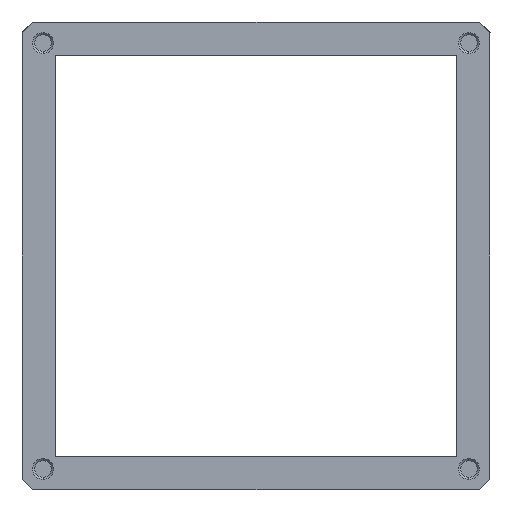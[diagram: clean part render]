
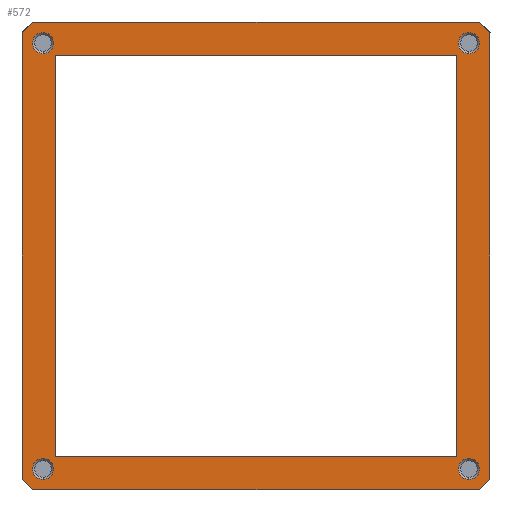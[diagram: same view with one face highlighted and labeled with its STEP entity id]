
A CAD part, left-side view. The second image highlights one B-rep face of the part: STEP entity #572.
In plain terms, the highlighted planar face has unit normal (-1, 0, 0).
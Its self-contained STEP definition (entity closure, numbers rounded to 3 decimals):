
#470=FACE_BOUND('',#1458,.F.);
#471=FACE_BOUND('',#1459,.F.);
#472=FACE_BOUND('',#1460,.F.);
#473=FACE_BOUND('',#1461,.F.);
#474=FACE_BOUND('',#1462,.F.);
#572=ADVANCED_FACE('',(#470,#471,#472,#473,#474,#1015),#4166,.T.);
#1015=FACE_OUTER_BOUND('',#1463,.F.);
#1458=EDGE_LOOP('',(#2013,#2014));
#1459=EDGE_LOOP('',(#2015,#2016));
#1460=EDGE_LOOP('',(#2017,#2018));
#1461=EDGE_LOOP('',(#2019,#2020));
#1462=EDGE_LOOP('',(#2021,#2022,#2023,#2024));
#1463=EDGE_LOOP('',(#2025,#2026,#2027,#2028,#2029,#2030,#2031,#2032));
#2013=ORIENTED_EDGE('',*,*,#5400,.T.);
#2014=ORIENTED_EDGE('',*,*,#5401,.T.);
#2015=ORIENTED_EDGE('',*,*,#5430,.T.);
#2016=ORIENTED_EDGE('',*,*,#5429,.T.);
#2017=ORIENTED_EDGE('',*,*,#5413,.T.);
#2018=ORIENTED_EDGE('',*,*,#5414,.T.);
#2019=ORIENTED_EDGE('',*,*,#5428,.T.);
#2020=ORIENTED_EDGE('',*,*,#5427,.T.);
#2021=ORIENTED_EDGE('',*,*,#5424,.T.);
#2022=ORIENTED_EDGE('',*,*,#5419,.T.);
#2023=ORIENTED_EDGE('',*,*,#5425,.T.);
#2024=ORIENTED_EDGE('',*,*,#5422,.T.);
#2025=ORIENTED_EDGE('',*,*,#5418,.F.);
#2026=ORIENTED_EDGE('',*,*,#5421,.F.);
#2027=ORIENTED_EDGE('',*,*,#5417,.F.);
#2028=ORIENTED_EDGE('',*,*,#5426,.F.);
#2029=ORIENTED_EDGE('',*,*,#5416,.F.);
#2030=ORIENTED_EDGE('',*,*,#5420,.F.);
#2031=ORIENTED_EDGE('',*,*,#5415,.F.);
#2032=ORIENTED_EDGE('',*,*,#5423,.F.);
#4166=PLANE('',#7971);
#4335=LINE('',#11698,#4871);
#4336=LINE('',#11699,#4872);
#4337=LINE('',#11700,#4873);
#4338=LINE('',#11701,#4874);
#4339=LINE('',#11702,#4875);
#4340=LINE('',#11703,#4876);
#4341=LINE('',#11704,#4877);
#4342=LINE('',#11705,#4878);
#4343=LINE('',#11706,#4879);
#4344=LINE('',#11707,#4880);
#4345=LINE('',#11708,#4881);
#4346=LINE('',#11709,#4882);
#4871=VECTOR('',#8691,1.414);
#4872=VECTOR('',#8692,1.414);
#4873=VECTOR('',#8693,1.414);
#4874=VECTOR('',#8694,1.414);
#4875=VECTOR('',#8695,38.1);
#4876=VECTOR('',#8696,42.45);
#4877=VECTOR('',#8697,42.45);
#4878=VECTOR('',#8698,38.1);
#4879=VECTOR('',#8699,42.45);
#4880=VECTOR('',#8700,38.1);
#4881=VECTOR('',#8701,38.1);
#4882=VECTOR('',#8702,42.45);
#5400=EDGE_CURVE('',#7437,#7436,#6482,.T.);
#5401=EDGE_CURVE('',#7436,#7437,#6483,.T.);
#5413=EDGE_CURVE('',#7423,#7422,#6484,.T.);
#5414=EDGE_CURVE('',#7422,#7423,#6485,.T.);
#5415=EDGE_CURVE('',#7426,#7427,#4335,.T.);
#5416=EDGE_CURVE('',#7421,#7420,#4336,.T.);
#5417=EDGE_CURVE('',#7419,#7418,#4337,.T.);
#5418=EDGE_CURVE('',#7417,#7416,#4338,.T.);
#5419=EDGE_CURVE('',#7415,#7414,#4339,.T.);
#5420=EDGE_CURVE('',#7427,#7421,#4340,.T.);
#5421=EDGE_CURVE('',#7418,#7417,#4341,.T.);
#5422=EDGE_CURVE('',#7413,#7412,#4342,.T.);
#5423=EDGE_CURVE('',#7416,#7426,#4343,.T.);
#5424=EDGE_CURVE('',#7412,#7415,#4344,.T.);
#5425=EDGE_CURVE('',#7414,#7413,#4345,.T.);
#5426=EDGE_CURVE('',#7420,#7419,#4346,.T.);
#5427=EDGE_CURVE('',#7411,#7410,#6486,.T.);
#5428=EDGE_CURVE('',#7410,#7411,#6487,.T.);
#5429=EDGE_CURVE('',#7409,#7408,#6488,.T.);
#5430=EDGE_CURVE('',#7408,#7409,#6489,.T.);
#6482=CIRCLE('',#7680,1.);
#6483=CIRCLE('',#7681,1.);
#6484=CIRCLE('',#7682,1.);
#6485=CIRCLE('',#7683,1.);
#6486=CIRCLE('',#7684,1.);
#6487=CIRCLE('',#7685,1.);
#6488=CIRCLE('',#7686,1.);
#6489=CIRCLE('',#7687,1.);
#7408=VERTEX_POINT('',#11605);
#7409=VERTEX_POINT('',#11606);
#7410=VERTEX_POINT('',#11607);
#7411=VERTEX_POINT('',#11608);
#7412=VERTEX_POINT('',#11609);
#7413=VERTEX_POINT('',#11610);
#7414=VERTEX_POINT('',#11611);
#7415=VERTEX_POINT('',#11612);
#7416=VERTEX_POINT('',#11613);
#7417=VERTEX_POINT('',#11614);
#7418=VERTEX_POINT('',#11615);
#7419=VERTEX_POINT('',#11616);
#7420=VERTEX_POINT('',#11617);
#7421=VERTEX_POINT('',#11618);
#7422=VERTEX_POINT('',#11619);
#7423=VERTEX_POINT('',#11620);
#7426=VERTEX_POINT('',#11623);
#7427=VERTEX_POINT('',#11624);
#7436=VERTEX_POINT('',#11633);
#7437=VERTEX_POINT('',#11634);
#7680=AXIS2_PLACEMENT_3D('',#11635,#8676,#8677);
#7681=AXIS2_PLACEMENT_3D('',#11636,#8678,#8679);
#7682=AXIS2_PLACEMENT_3D('',#11696,#8687,#8688);
#7683=AXIS2_PLACEMENT_3D('',#11697,#8689,#8690);
#7684=AXIS2_PLACEMENT_3D('',#11710,#8703,#8704);
#7685=AXIS2_PLACEMENT_3D('',#11711,#8705,#8706);
#7686=AXIS2_PLACEMENT_3D('',#11712,#8707,#8708);
#7687=AXIS2_PLACEMENT_3D('',#11713,#8709,#8710);
#7971=AXIS2_PLACEMENT_3D('',#12398,#9626,#9627);
#8676=DIRECTION('',(-1.,0.,0.));
#8677=DIRECTION('',(0.,0.,1.));
#8678=DIRECTION('',(-1.,0.,0.));
#8679=DIRECTION('',(0.,0.,-1.));
#8687=DIRECTION('',(-1.,0.,0.));
#8688=DIRECTION('',(0.,0.,1.));
#8689=DIRECTION('',(-1.,0.,0.));
#8690=DIRECTION('',(0.,0.,-1.));
#8691=DIRECTION('',(0.,0.707,-0.707));
#8692=DIRECTION('',(0.,-0.707,-0.707));
#8693=DIRECTION('',(0.,-0.707,0.707));
#8694=DIRECTION('',(0.,0.707,0.707));
#8695=DIRECTION('',(0.,-1.,0.));
#8696=DIRECTION('',(0.,0.,-1.));
#8697=DIRECTION('',(0.,0.,1.));
#8698=DIRECTION('',(0.,1.,0.));
#8699=DIRECTION('',(0.,1.,0.));
#8700=DIRECTION('',(0.,0.,-1.));
#8701=DIRECTION('',(0.,0.,1.));
#8702=DIRECTION('',(0.,-1.,0.));
#8703=DIRECTION('',(-1.,0.,0.));
#8704=DIRECTION('',(0.,0.,-1.));
#8705=DIRECTION('',(-1.,0.,0.));
#8706=DIRECTION('',(0.,0.,1.));
#8707=DIRECTION('',(-1.,0.,0.));
#8708=DIRECTION('',(0.,0.,-1.));
#8709=DIRECTION('',(-1.,0.,0.));
#8710=DIRECTION('',(0.,0.,1.));
#9626=DIRECTION('',(-1.,0.,0.));
#9627=DIRECTION('',(0.,1.,0.));
#11605=CARTESIAN_POINT('',(8.25,23.475,-60.37));
#11606=CARTESIAN_POINT('',(8.25,23.475,-62.37));
#11607=CARTESIAN_POINT('',(8.25,-16.975,-19.92));
#11608=CARTESIAN_POINT('',(8.25,-16.975,-21.92));
#11609=CARTESIAN_POINT('',(8.25,22.3,-22.095));
#11610=CARTESIAN_POINT('',(8.25,-15.8,-22.095));
#11611=CARTESIAN_POINT('',(8.25,-15.8,-60.195));
#11612=CARTESIAN_POINT('',(8.25,22.3,-60.195));
#11613=CARTESIAN_POINT('',(8.25,-17.975,-18.92));
#11614=CARTESIAN_POINT('',(8.25,-18.975,-19.92));
#11615=CARTESIAN_POINT('',(8.25,-18.975,-62.37));
#11616=CARTESIAN_POINT('',(8.25,-17.975,-63.37));
#11617=CARTESIAN_POINT('',(8.25,24.475,-63.37));
#11618=CARTESIAN_POINT('',(8.25,25.475,-62.37));
#11619=CARTESIAN_POINT('',(8.25,-16.975,-62.37));
#11620=CARTESIAN_POINT('',(8.25,-16.975,-60.37));
#11623=CARTESIAN_POINT('',(8.25,24.475,-18.92));
#11624=CARTESIAN_POINT('',(8.25,25.475,-19.92));
#11633=CARTESIAN_POINT('',(8.25,23.475,-21.92));
#11634=CARTESIAN_POINT('',(8.25,23.475,-19.92));
#11635=CARTESIAN_POINT('',(8.25,23.475,-20.92));
#11636=CARTESIAN_POINT('',(8.25,23.475,-20.92));
#11696=CARTESIAN_POINT('',(8.25,-16.975,-61.37));
#11697=CARTESIAN_POINT('',(8.25,-16.975,-61.37));
#11698=CARTESIAN_POINT('',(8.25,24.475,-18.92));
#11699=CARTESIAN_POINT('',(8.25,25.475,-62.37));
#11700=CARTESIAN_POINT('',(8.25,-17.975,-63.37));
#11701=CARTESIAN_POINT('',(8.25,-18.975,-19.92));
#11702=CARTESIAN_POINT('',(8.25,22.3,-60.195));
#11703=CARTESIAN_POINT('',(8.25,25.475,-19.92));
#11704=CARTESIAN_POINT('',(8.25,-18.975,-62.37));
#11705=CARTESIAN_POINT('',(8.25,-15.8,-22.095));
#11706=CARTESIAN_POINT('',(8.25,-17.975,-18.92));
#11707=CARTESIAN_POINT('',(8.25,22.3,-22.095));
#11708=CARTESIAN_POINT('',(8.25,-15.8,-60.195));
#11709=CARTESIAN_POINT('',(8.25,24.475,-63.37));
#11710=CARTESIAN_POINT('',(8.25,-16.975,-20.92));
#11711=CARTESIAN_POINT('',(8.25,-16.975,-20.92));
#11712=CARTESIAN_POINT('',(8.25,23.475,-61.37));
#11713=CARTESIAN_POINT('',(8.25,23.475,-61.37));
#12398=CARTESIAN_POINT('',(8.25,-19.42,-18.475));
